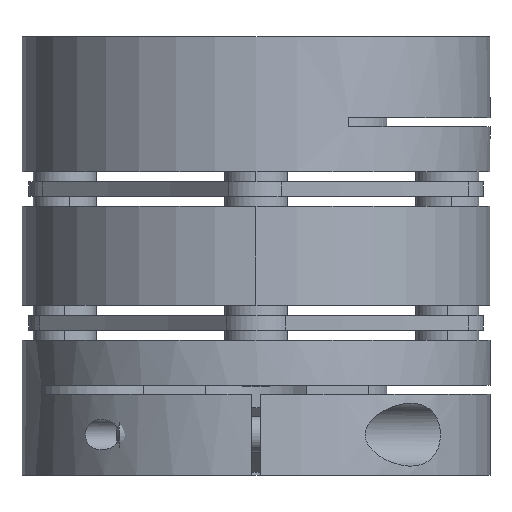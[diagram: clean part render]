
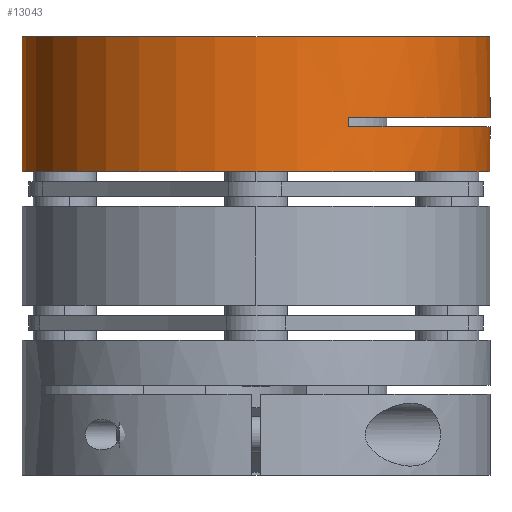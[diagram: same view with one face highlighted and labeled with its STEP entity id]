
A CAD part, front view. The second image highlights one B-rep face of the part: STEP entity #13043.
In plain terms, the highlighted cylindrical face has radius 52 mm (diameter 104 mm), a partial arc.
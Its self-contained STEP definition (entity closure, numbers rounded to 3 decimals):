
#23 = CIRCLE ( 'NONE', #10184, 52. ) ;
#197 = AXIS2_PLACEMENT_3D ( 'NONE', #11323, #18336, #4427 ) ;
#571 = DIRECTION ( 'NONE',  ( 1., 0., 0. ) ) ;
#1215 = DIRECTION ( 'NONE',  ( 0., 0., -1. ) ) ;
#1230 = DIRECTION ( 'NONE',  ( 0., 0., -1. ) ) ;
#1415 = DIRECTION ( 'NONE',  ( 0., 0., -1. ) ) ;
#1648 = VERTEX_POINT ( 'NONE', #11034 ) ;
#1812 = CARTESIAN_POINT ( 'NONE',  ( -136.098, 190.975, 120.947 ) ) ;
#3009 = CARTESIAN_POINT ( 'NONE',  ( -32.098, 190.975, 120.947 ) ) ;
#3855 = ORIENTED_EDGE ( 'NONE', *, *, #9637, .F. ) ;
#3924 = EDGE_CURVE ( 'NONE', #20292, #1648, #5337, .T. ) ;
#4427 = DIRECTION ( 'NONE',  ( -1., 0., 0. ) ) ;
#4636 = CARTESIAN_POINT ( 'NONE',  ( -32.098, 190.975, 90.947 ) ) ;
#4824 = VERTEX_POINT ( 'NONE', #19145 ) ;
#5337 = LINE ( 'NONE', #21559, #12203 ) ;
#5451 = DIRECTION ( 'NONE',  ( 0., 0., -1. ) ) ;
#5754 = ORIENTED_EDGE ( 'NONE', *, *, #6976, .F. ) ;
#6008 = CARTESIAN_POINT ( 'NONE',  ( -84.098, 190.975, 90.947 ) ) ;
#6976 = EDGE_CURVE ( 'NONE', #9009, #21048, #16916, .T. ) ;
#7159 = LINE ( 'NONE', #17712, #20583 ) ;
#7773 = DIRECTION ( 'NONE',  ( 1., 0., 0. ) ) ;
#8002 = ORIENTED_EDGE ( 'NONE', *, *, #11823, .T. ) ;
#8446 = CARTESIAN_POINT ( 'NONE',  ( -32.098, 190.975, 120.947 ) ) ;
#8476 = DIRECTION ( 'NONE',  ( 0., 0., -1. ) ) ;
#8559 = CIRCLE ( 'NONE', #19839, 52. ) ;
#9009 = VERTEX_POINT ( 'NONE', #18666 ) ;
#9637 = EDGE_CURVE ( 'NONE', #18854, #4824, #7159, .T. ) ;
#10184 = AXIS2_PLACEMENT_3D ( 'NONE', #6008, #18260, #7773 ) ;
#10212 = EDGE_CURVE ( 'NONE', #15675, #18648, #15663, .T. ) ;
#10736 = CYLINDRICAL_SURFACE ( 'NONE', #197, 52. ) ;
#11034 = CARTESIAN_POINT ( 'NONE',  ( -63.462, 143.245, 100.947 ) ) ;
#11106 = DIRECTION ( 'NONE',  ( 0., 0., 1. ) ) ;
#11323 = CARTESIAN_POINT ( 'NONE',  ( -84.098, 190.975, 120.947 ) ) ;
#11465 = AXIS2_PLACEMENT_3D ( 'NONE', #21544, #11106, #571 ) ;
#11736 = CARTESIAN_POINT ( 'NONE',  ( -84.098, 190.975, 102.947 ) ) ;
#11823 = EDGE_CURVE ( 'NONE', #18648, #21048, #23, .T. ) ;
#11932 = CARTESIAN_POINT ( 'NONE',  ( -84.098, 190.975, 100.947 ) ) ;
#12203 = VECTOR ( 'NONE', #21834, 1000. ) ;
#12670 = ORIENTED_EDGE ( 'NONE', *, *, #10212, .T. ) ;
#13043 = ADVANCED_FACE ( 'NONE', ( #17052 ), #10736, .T. ) ;
#13157 = ORIENTED_EDGE ( 'NONE', *, *, #19603, .F. ) ;
#13178 = CIRCLE ( 'NONE', #18044, 52. ) ;
#13531 = DIRECTION ( 'NONE',  ( -1., 0., 0. ) ) ;
#13719 = DIRECTION ( 'NONE',  ( -1., 0., 0. ) ) ;
#14926 = EDGE_LOOP ( 'NONE', ( #3855, #19811, #12670, #8002, #5754, #22638, #21329, #13157 ) ) ;
#15663 = LINE ( 'NONE', #17218, #20252 ) ;
#15675 = VERTEX_POINT ( 'NONE', #1812 ) ;
#16768 = CIRCLE ( 'NONE', #11465, 52. ) ;
#16916 = LINE ( 'NONE', #3009, #20959 ) ;
#17052 = FACE_OUTER_BOUND ( 'NONE', #14926, .T. ) ;
#17218 = CARTESIAN_POINT ( 'NONE',  ( -136.098, 190.975, 120.947 ) ) ;
#17689 = EDGE_CURVE ( 'NONE', #15675, #18854, #16768, .T. ) ;
#17712 = CARTESIAN_POINT ( 'NONE',  ( -32.098, 190.975, 120.947 ) ) ;
#17988 = EDGE_CURVE ( 'NONE', #9009, #1648, #13178, .T. ) ;
#18044 = AXIS2_PLACEMENT_3D ( 'NONE', #11932, #1415, #13719 ) ;
#18260 = DIRECTION ( 'NONE',  ( 0., 0., 1. ) ) ;
#18336 = DIRECTION ( 'NONE',  ( 0., 0., -1. ) ) ;
#18362 = CARTESIAN_POINT ( 'NONE',  ( -63.462, 143.245, 102.947 ) ) ;
#18648 = VERTEX_POINT ( 'NONE', #21974 ) ;
#18666 = CARTESIAN_POINT ( 'NONE',  ( -32.098, 190.975, 100.947 ) ) ;
#18854 = VERTEX_POINT ( 'NONE', #8446 ) ;
#19145 = CARTESIAN_POINT ( 'NONE',  ( -32.098, 190.975, 102.947 ) ) ;
#19603 = EDGE_CURVE ( 'NONE', #4824, #20292, #8559, .T. ) ;
#19811 = ORIENTED_EDGE ( 'NONE', *, *, #17689, .F. ) ;
#19839 = AXIS2_PLACEMENT_3D ( 'NONE', #11736, #1215, #13531 ) ;
#20252 = VECTOR ( 'NONE', #8476, 1000. ) ;
#20292 = VERTEX_POINT ( 'NONE', #18362 ) ;
#20583 = VECTOR ( 'NONE', #5451, 1000. ) ;
#20959 = VECTOR ( 'NONE', #1230, 1000. ) ;
#21048 = VERTEX_POINT ( 'NONE', #4636 ) ;
#21329 = ORIENTED_EDGE ( 'NONE', *, *, #3924, .F. ) ;
#21544 = CARTESIAN_POINT ( 'NONE',  ( -84.098, 190.975, 120.947 ) ) ;
#21559 = CARTESIAN_POINT ( 'NONE',  ( -63.462, 143.245, 102.947 ) ) ;
#21834 = DIRECTION ( 'NONE',  ( 0., 0., -1. ) ) ;
#21974 = CARTESIAN_POINT ( 'NONE',  ( -136.098, 190.975, 90.947 ) ) ;
#22638 = ORIENTED_EDGE ( 'NONE', *, *, #17988, .T. ) ;
